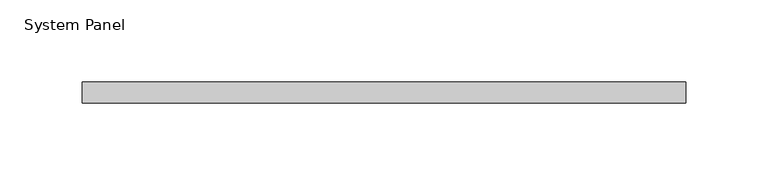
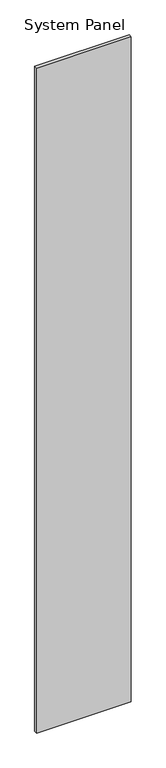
"""IFC4 building model written with IfcOpenShell, lengths in millimetres: plate geometry, System Panel : CR-BARANDA."""

from ifc_helpers import new_model, si_unit, origin, origin_with_axes, place, context, project, spatial, polyline, outline, extrude, source, transform, mapped, element, save


def system_panel_5bddcc3b(model_context):
    return source(origin(), model_context, "Body", "SweptSolid", [
        extrude(outline(polyline([(183.0031444, -6.25), (-183.0031444, -6.25), (-183.0031444, 6.25), (183.0031444, 6.25), (183.0031444, -6.25)])), origin_with_axes(), (0.0, 0.0, 1.0), 2720.0),
    ])


if __name__ == "__main__":
    model = new_model("IFC4")
    model_context = context("Model", 3, world=origin())
    ifc_project = project(units=[si_unit("LENGTHUNIT", "METRE", prefix="MILLI")], contexts=[model_context])
    site = spatial("IfcSite", under=ifc_project)
    building = spatial("IfcBuilding", under=site)
    placement = place(None, origin())
    system_panel_shape = system_panel_5bddcc3b(model_context)
    element("IfcPlate", 1, ObjectType="System Panel : CR-BARANDA", at=placement, inside=building, context=model_context, shape_type="MappedRepresentation", body=[
        mapped(system_panel_shape, transform((0.0, 0.0, 0.0), x_axis=(1.0, 0.0, 0.0), y_axis=(0.0, 1.0, 0.0), z_axis=(0.0, 0.0, 1.0))),
    ])
    save(model, "model.ifc")
